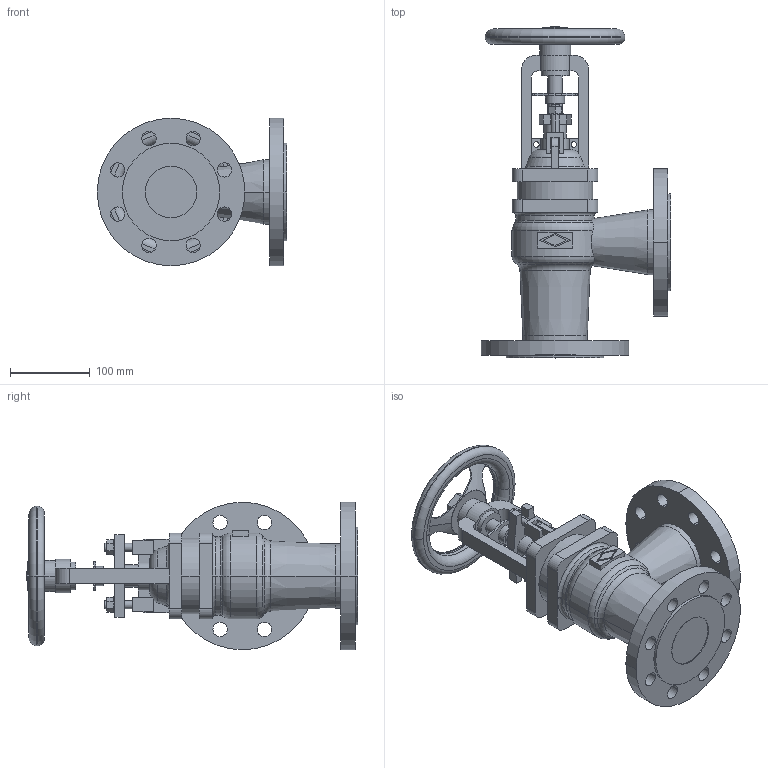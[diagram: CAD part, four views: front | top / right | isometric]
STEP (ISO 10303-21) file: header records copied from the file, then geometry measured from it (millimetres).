
FILE_DESCRIPTION(('OneSpaceDesigner STEP Export'),'2;1');
FILE_NAME('c000004440.stp','2010-05-17T 9:38:06',(''),(''),'OneSpace Designer STEP processor for AP214 (Solid Model)','OneSpace Modeling 15.50B 03-Nov-2007 (C) CoCreate Software GmbH','');
FILE_SCHEMA(('AUTOMOTIVE_DESIGN { 1 0 10303 214 1 1 1 1 }'));
Length unit declared in the file: millimetre
Products named in the file (1): 1
Bounding box: 237.5 x 416.1 x 185 mm (x, y, z)
Volume: 3437714.5 mm3; surface area: 340596.4 mm2
Topology: 1 solids, 1 shells, 316 faces, 852 edges, 559 vertices
Faces by surface type: plane 139, cylinder 129, torus 32, cone 16
Entity records: 12824 total; most frequent: CARTESIAN_POINT 2707, ORIENTED_EDGE 1704, DIRECTION 1389, EDGE_CURVE 852, VERTEX_POINT 559, AXIS2_PLACEMENT_3D 484, VECTOR 421, LINE 421
